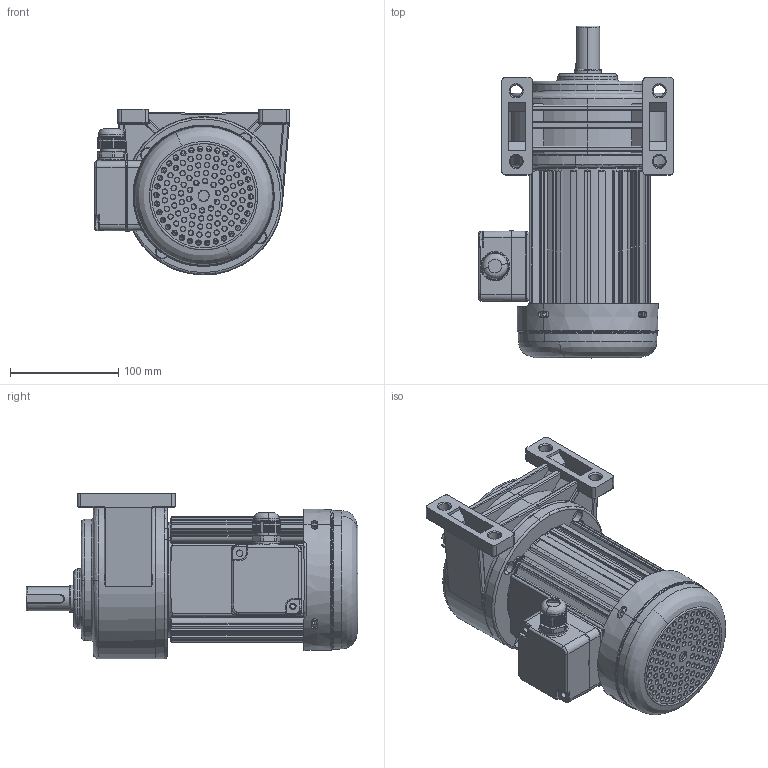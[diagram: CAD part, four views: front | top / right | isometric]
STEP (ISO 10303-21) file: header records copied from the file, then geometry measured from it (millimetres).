
FILE_DESCRIPTION (( 'STEP AP203' ), '1' );
FILE_NAME ('200W配2#卧式.STEP', '2019-06-14T06:24:50', ( '微软中国' ), ( '微软用户' ), 'SwSTEP 2.0', 'SolidWorks 2012', '' );
FILE_SCHEMA (( 'CONFIG_CONTROL_DESIGN' ));
Length unit declared in the file: millimetre
Products named in the file (10): 200W饜2#拏宒; 2#拏宒熬厒ん; 2xg100w200w; 200W 儂褲2; 坶踡ん 蚾饜; 苤諉盄碟 裔; 苤諉盄碟釱; 釱菜; 100W瑞欶; 100W綴傷裔 2_25
Assembly tree (9 placements, depth 2):
  200W饜2#拏宒
    100W綴傷裔 2_25
    100W瑞欶
    釱菜
    苤諉盄碟釱
    苤諉盄碟 裔
    坶踡ん 蚾饜
    200W 儂褲2
    2xg100w200w
    2#拏宒熬厒ん
Bounding box: 179.46 x 305.99 x 153 mm (x, y, z)
Volume: 1722838.7 mm3; surface area: 448228.7 mm2
Topology: 6 solids, 10 shells, 2611 faces, 6917 edges, 4366 vertices
Faces by surface type: cylinder 780, bspline 719, plane 637, torus 252, cone 185, sphere 38
Entity records: 121084 total; most frequent: CARTESIAN_POINT 60955, ORIENTED_EDGE 13710, DIRECTION 10323, EDGE_CURVE 6885, VERTEX_POINT 4366, AXIS2_PLACEMENT_3D 4005, EDGE_LOOP 2990, ADVANCED_FACE 2611
